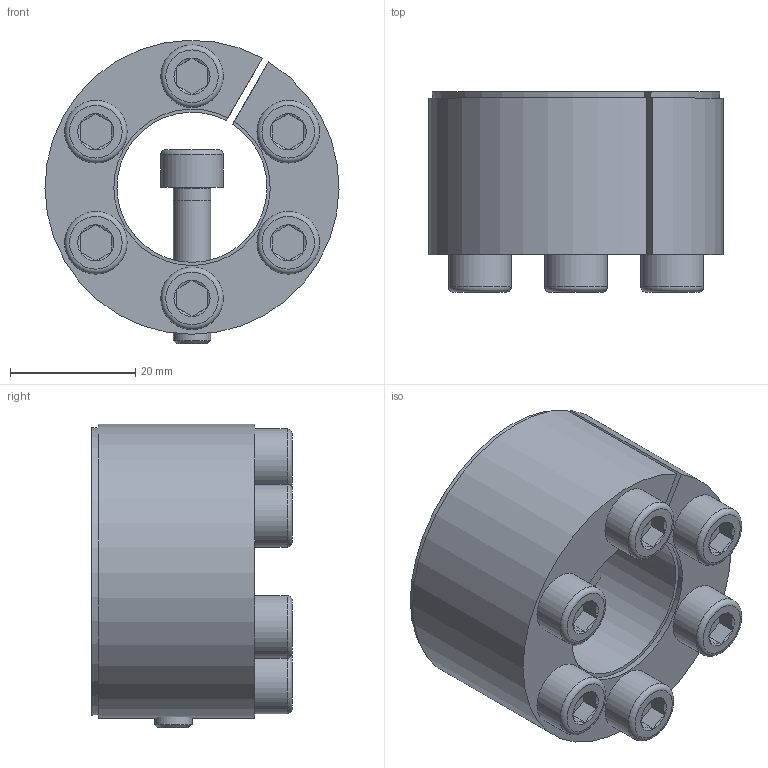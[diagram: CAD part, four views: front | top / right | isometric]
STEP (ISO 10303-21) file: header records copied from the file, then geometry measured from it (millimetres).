
FILE_DESCRIPTION( ( 'Unknown' ), '1' );
FILE_NAME( 'C:/Dokumente und Einstellungen/Sven/Desktop/homepage/cad - homepage/KBS61/KBS 61 - 24 x 47.stp', 'Unknown', ( 'Unknown' ), ( 'Unknown' ), 'XStep 1.0', 'Unknown', ' ' );
FILE_SCHEMA( ( 'automotive_design' ) );
Length unit declared in the file: millimetre
Products named in the file (3): Assem1; KBS 61 - 24 x 47; ISO EN DIN 4762 M6x25
Bounding box: 47 x 32 x 48.49 mm (x, y, z)
Volume: 64665.7 mm3; surface area: 29064.6 mm2
Topology: 9 solids, 9 shells, 207 faces, 397 edges, 236 vertices
Faces by surface type: plane 96, cone 53, cylinder 44, torus 14
Full cylindrical faces by diameter (mm): 5 x7, 6 x26, 10 x7
Entity records: 1282 total; most frequent: CARTESIAN_POINT 229, DIRECTION 196, ORIENTED_EDGE 142, AXIS2_PLACEMENT_3D 86, EDGE_CURVE 71, EDGE_LOOP 70, FACE_OUTER_BOUND 53, VERTEX_POINT 51
